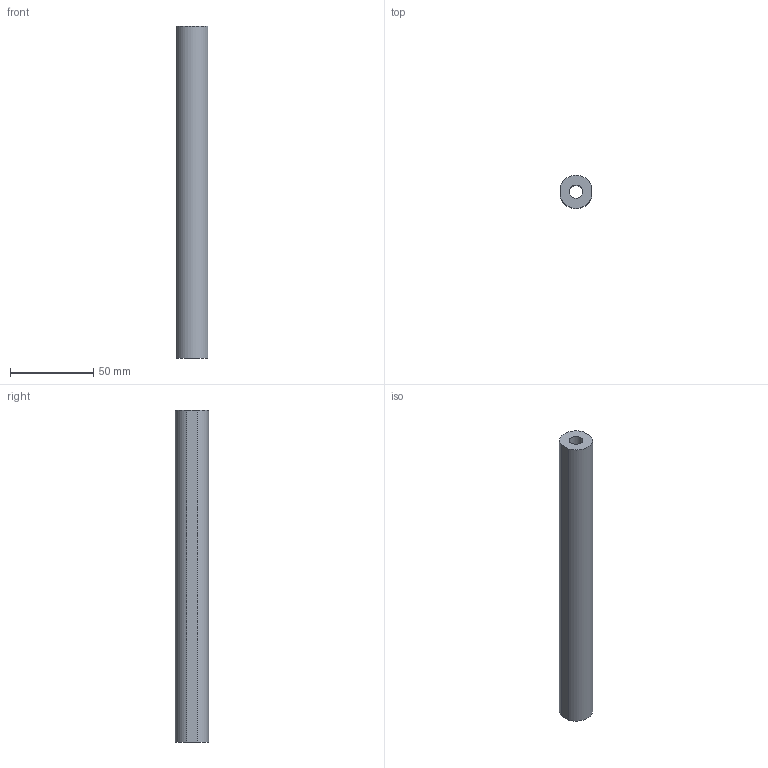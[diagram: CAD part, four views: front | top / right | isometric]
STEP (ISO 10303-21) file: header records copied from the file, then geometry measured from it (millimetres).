
FILE_DESCRIPTION((''),'2;1');
FILE_NAME('C:\Vault Klient\Projekt\Step\300-4010.stp','2009-12-04T14:00:52',('Mathias'),(''),'Autodesk Inventor 2010','Autodesk Inventor 2010','');
FILE_SCHEMA(('CONFIG_CONTROL_DESIGN'));
Length unit declared in the file: millimetre
Products named in the file (1): 300-4010-01
Bounding box: 19 x 19.93 x 200 mm (x, y, z)
Volume: 51941.8 mm3; surface area: 18069.9 mm2
Topology: 1 solids, 1 shells, 7 faces, 15 edges, 10 vertices
Faces by surface type: plane 4, cylinder 3
Full cylindrical faces by diameter (mm): 8 x1
Entity records: 220 total; most frequent: DIRECTION 36, CARTESIAN_POINT 32, ORIENTED_EDGE 28, AXIS2_PLACEMENT_3D 14, EDGE_CURVE 14, VERTEX_POINT 10, EDGE_LOOP 10, VECTOR 8
